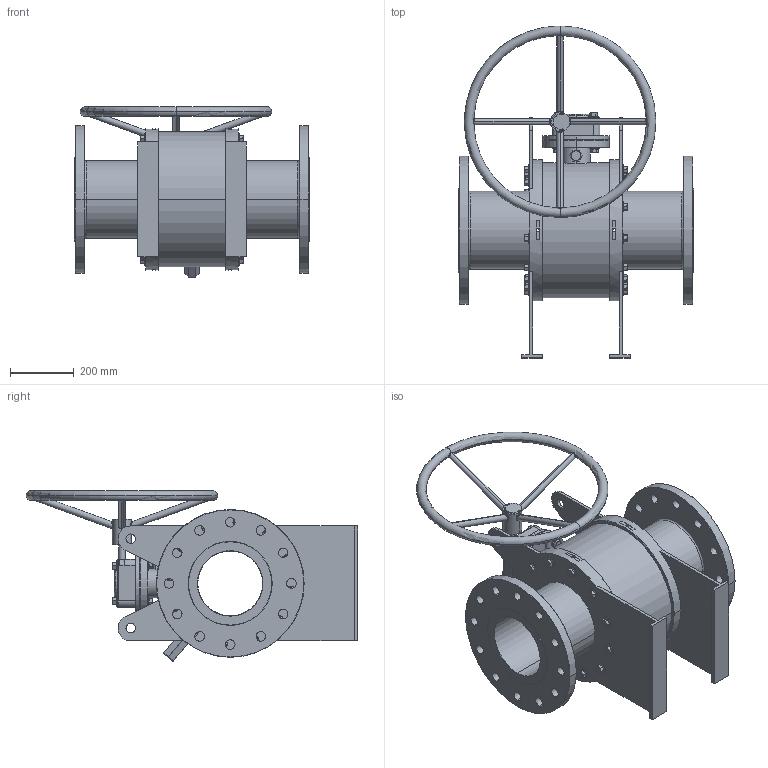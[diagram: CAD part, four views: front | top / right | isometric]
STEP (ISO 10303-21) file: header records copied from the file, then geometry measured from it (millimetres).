
FILE_DESCRIPTION (( 'STEP AP203' ), '1' );
FILE_NAME ('GB2_ANSI_900_8IN_HD.STEP', '2025-10-09T15:03:10', ( '' ), ( '' ), 'SwSTEP 2.0', 'SolidWorks 2025', '' );
FILE_SCHEMA (( 'CONFIG_CONTROL_DESIGN' ));
Length unit declared in the file: millimetre
Products named in the file (3): GB2_ANSI_900_8IN_HD; GB2_ANSI_2500_1500_ANSI_900_8IN; hex flange screw_am_B18.2.3.4M - Hex flange screw, M16 x 2.0 x 25 --25N
Assembly tree (33 placements, depth 2):
  GB2_ANSI_900_8IN_HD
    GB2_ANSI_2500_1500_ANSI_900_8IN
    hex flange screw_am_B18.2.3.4M - Hex flange screw, M16 x 2.0 x 25 --25N  x32
Bounding box: 737 x 1039.5 x 533.45 mm (x, y, z)
Volume: 53349674.7 mm3; surface area: 3208045.4 mm2
Topology: 34 solids, 34 shells, 1487 faces, 3389 edges, 2048 vertices
Faces by surface type: plane 492, cone 352, cylinder 284, bspline 265, torus 88, sphere 6
Entity records: 27020 total; most frequent: CARTESIAN_POINT 11839, ORIENTED_EDGE 2926, DIRECTION 2876, EDGE_CURVE 1463, AXIS2_PLACEMENT_3D 1097, VERTEX_POINT 930, EDGE_LOOP 723, LINE 682
